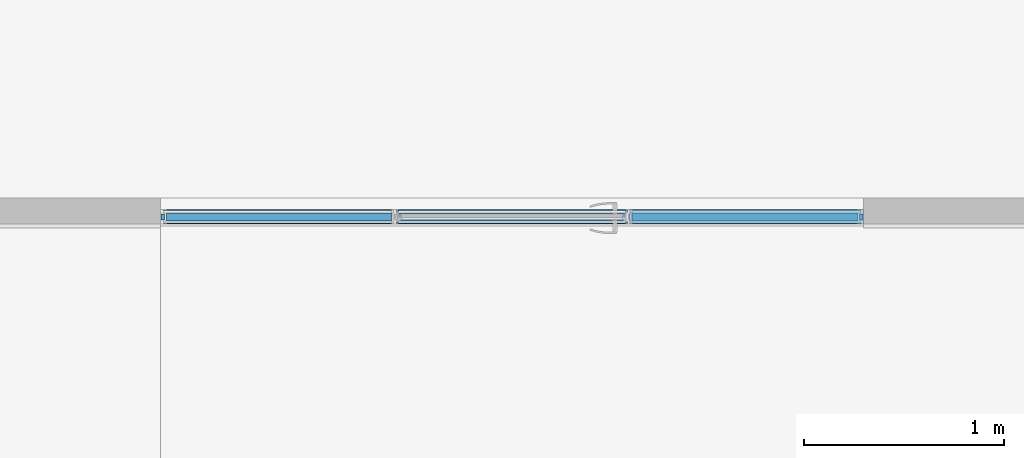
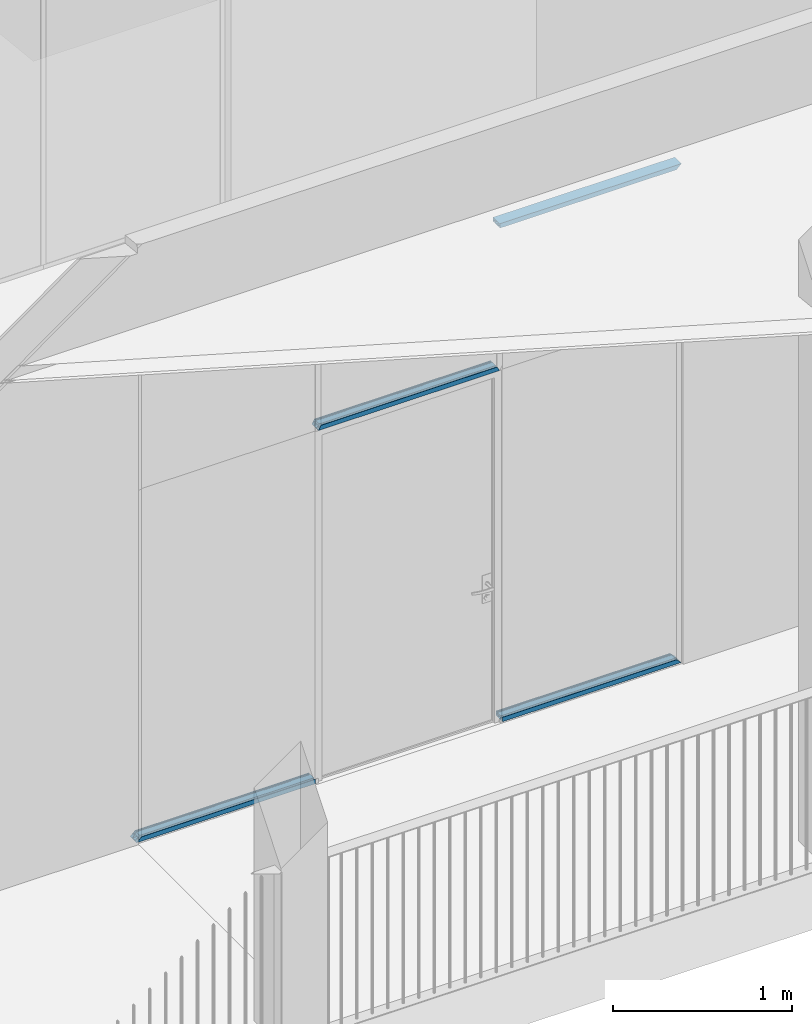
# One storey, part 15 of 43: 4 members, 1 element without a shape of its own.
"""IFC2X3 building model written with IfcOpenShell, lengths in millimetres."""

import ifcopenshell
import ifcopenshell.guid

model = None  # the IFC model being written
_history = None  # IfcOwnerHistory: only IFC2X3 demands one
_inside = {}  # id of a spatial element -> (the spatial element, [elements in it])
_under = {}  # id of a project, library or spatial element -> (it, [spatial elements below it])
_declared = {}  # id of a project -> (the project, [libraries it declares])
_typed = {}  # id of a type object -> (the type object, [elements of that type])
_made_of = {}  # id of a material, layer set ... -> (it, [elements and type objects made of it])


def new_model(schema):
    """Start an empty IFC model of exactly this schema.

    Asked for "IFC4X3", IfcOpenShell would pick the latest addendum, in which some entities
    have other attributes; the version numbers below select the first issue.
    IFC2X3 requires an IfcOwnerHistory on every rooted entity: one is made here for all.
    """
    global model, _history
    if schema == "IFC4X3":
        model = ifcopenshell.file(schema_version=(4, 3, 0, 0))
    else:
        model = ifcopenshell.file(schema=schema)
    _inside.clear()
    _under.clear()
    _declared.clear()
    _typed.clear()
    _made_of.clear()
    _history = None
    if model.schema == "IFC2X3":
        org = make("IfcOrganization", Name="unknown")
        user = make(
            "IfcPersonAndOrganization",
            ThePerson=make("IfcPerson", FamilyName="unknown"),
            TheOrganization=org,
        )
        app = make(
            "IfcApplication",
            ApplicationDeveloper=org,
            Version="unknown",
            ApplicationFullName="unknown",
            ApplicationIdentifier="unknown",
        )
        _history = make(
            "IfcOwnerHistory",
            OwningUser=user,
            OwningApplication=app,
            ChangeAction="ADDED",
            CreationDate=0,
        )
    return model


def make(cls, **values):
    """One entity of the class cls with the attributes given. An attribute that is None is left unset."""
    return model.create_entity(
        cls, **{name: value for name, value in values.items() if value is not None}
    )


def entity(cls, *values):
    """Any entity or typed value of the class cls, its attributes in the order of the schema. None: left unset."""
    e = model.create_entity(cls)
    for i, value in enumerate(values):
        if value is not None:
            e[i] = value
    return e


def rooted(cls, **values):
    """An entity with a GlobalId (a new one), such as an element, a storey or a relation."""
    return make(cls, GlobalId=ifcopenshell.guid.new(), OwnerHistory=_history, **values)


def si_unit(unit_type, name, prefix=None):
    """IfcSIUnit, for example si_unit("LENGTHUNIT", "METRE", prefix="MILLI")."""
    return make("IfcSIUnit", UnitType=unit_type, Prefix=prefix, Name=name)


def converted_unit(unit_type, name, factor, base, dimensions=None, offset=None):
    """IfcConversionBasedUnit, such as the inch: factor (a typed value) times the base unit."""
    return make(
        "IfcConversionBasedUnit"
        if offset is None
        else "IfcConversionBasedUnitWithOffset",
        ConversionOffset=offset,
        Dimensions=None
        if dimensions is None
        else entity("IfcDimensionalExponents", *dimensions),
        UnitType=unit_type,
        Name=name,
        ConversionFactor=make(
            "IfcMeasureWithUnit", ValueComponent=factor, UnitComponent=base
        ),
    )


def derived_unit(unit_type, elements):
    """IfcDerivedUnit: a product of units, each with its exponent."""
    return make(
        "IfcDerivedUnit",
        Elements=[
            make("IfcDerivedUnitElement", Unit=unit, Exponent=power)
            for unit, power in elements
        ],
        UnitType=unit_type,
    )


def money_unit(currency):
    """IfcMonetaryUnit."""
    return make("IfcMonetaryUnit", Currency=currency)


def assignment(units):
    """IfcUnitAssignment: the units of a project."""
    return None if units is None else make("IfcUnitAssignment", Units=units)


def point(xyz):
    """IfcCartesianPoint."""
    return None if xyz is None else make("IfcCartesianPoint", Coordinates=xyz)


def direction(xyz):
    """IfcDirection."""
    return None if xyz is None else make("IfcDirection", DirectionRatios=xyz)


def frame(location, z_axis=None, x_axis=None):
    """IfcAxis2Placement3D, a coordinate frame: its origin and axes. An axis left out is left unset."""
    return make(
        "IfcAxis2Placement3D",
        Location=point(location),
        Axis=direction(z_axis),
        RefDirection=direction(x_axis),
    )


def origin_with_axes():
    """The frame at (0, 0, 0) with the z axis (0, 0, 1) and the x axis (1, 0, 0) written out."""
    return frame((0.0, 0.0, 0.0), z_axis=(0.0, 0.0, 1.0), x_axis=(1.0, 0.0, 0.0))


def place(relative_to, where):
    """IfcLocalPlacement: puts the frame where relative to a parent placement (None: the world)."""
    return make(
        "IfcLocalPlacement", PlacementRelTo=relative_to, RelativePlacement=where
    )


def context(
    kind, dimensions, precision=None, world=None, true_north=None, identifier=None
):
    """IfcGeometricRepresentationContext, for example the 3D "Model" context."""
    return make(
        "IfcGeometricRepresentationContext",
        ContextIdentifier=identifier,
        ContextType=kind,
        CoordinateSpaceDimension=dimensions,
        Precision=precision,
        WorldCoordinateSystem=world,
        TrueNorth=true_north,
    )


def subcontext(parent, identifier, kind, view, scale=None):
    """IfcGeometricRepresentationSubContext, for example "Body" below "Model"."""
    return make(
        "IfcGeometricRepresentationSubContext",
        ContextIdentifier=identifier,
        ContextType=kind,
        ParentContext=parent,
        TargetScale=scale,
        TargetView=view,
    )


def project(units=None, contexts=None):
    """IfcProject with its units and contexts."""
    return rooted(
        "IfcProject",
        Name="project",
        RepresentationContexts=contexts,
        UnitsInContext=assignment(units),
    )


def spatial(cls, under=None, at=None, **own):
    """A site, building, storey or space (cls), placed at a placement, below another one or the project."""
    s = rooted(cls, ObjectPlacement=at, **own)
    if under is not None:
        _under.setdefault(under.id(), (under, []))[1].append(s)
    return s


def faces_of(points, faces, orient=None, outer=None):
    """IfcFace entities. A face is a list of loops; a loop is a list of indices into points, from 0.

    orient and outer hold one flag for each loop. By default every Orientation is true, the
    first loop of a face is its IfcFaceOuterBound and the others are IfcFaceBound.
    """
    made = []
    for i, loops in enumerate(faces):
        bounds = []
        for j, loop in enumerate(loops):
            is_outer = j == 0 if outer is None else outer[i][j]
            bounds.append(
                make(
                    "IfcFaceOuterBound" if is_outer else "IfcFaceBound",
                    Bound=make("IfcPolyLoop", Polygon=[points[k] for k in loop]),
                    Orientation=True if orient is None else orient[i][j],
                )
            )
        made.append(make("IfcFace", Bounds=bounds))
    return made


def faceted_brep(points, faces, orient=None, outer=None, voids=None):
    """IfcFacetedBrep: a solid bounded by flat faces; with voids (closed shells), ...WithVoids."""
    shared = [point(p) for p in points]
    hull = make("IfcClosedShell", CfsFaces=faces_of(shared, faces, orient, outer))
    if voids is None:
        return make("IfcFacetedBrep", Outer=hull)
    return make(
        "IfcFacetedBrepWithVoids",
        Outer=hull,
        Voids=[
            make(cls, CfsFaces=faces_of(shared, fs, o, b)) for cls, fs, o, b in voids
        ],
    )


def shape(context_of_items, identifier, shape_type, items):
    """IfcShapeRepresentation: the items that make up one representation, for example the "Body"."""
    return make(
        "IfcShapeRepresentation",
        ContextOfItems=context_of_items,
        RepresentationIdentifier=identifier,
        RepresentationType=shape_type,
        Items=items,
    )


def material(Name=None, Category=None):
    """IfcMaterial."""
    return make("IfcMaterial", Name=Name, Category=Category)


def material_list(materials):
    """IfcMaterialList."""
    return make("IfcMaterialList", Materials=materials)


def made_of(thing, what):
    """Note that an element or type object is made of a material, layer set ...; save() writes the relation."""
    if what is not None:
        _made_of.setdefault(what.id(), (what, []))[1].append(thing)
    return thing


def type_object(cls, material=None, **own):
    """A type object (cls), such as IfcWallType, which elements share."""
    return made_of(rooted(cls, **own), material)


def element(
    cls,
    number,
    at=None,
    inside=None,
    cuts=None,
    type_object=None,
    material=None,
    context=None,
    identifier="Body",
    shape_type=None,
    held_by="IfcProductDefinitionShape",
    body=None,
    shapes=None,
    **own,
):
    """One element of the class cls, such as IfcWall. Its Tag is "e" and its number.

    at: its placement. inside: the storey or other place that contains it. cuts: it is an
    opening in that element (IfcRelVoidsElement). A single representation is given by context,
    identifier, shape_type and body (its items); several are given by shapes. held_by: the class
    of the entity that holds the representations. save() writes the other relations.
    """
    e = rooted(cls, Tag="e%d" % number, ObjectPlacement=at, **own)
    if body is not None:
        shapes = [shape(context, identifier, shape_type, body)]
    if shapes is not None:
        e.Representation = make(held_by, Representations=shapes)
    if inside is not None:
        _inside.setdefault(inside.id(), (inside, []))[1].append(e)
    if cuts is not None:
        rooted(
            "IfcRelVoidsElement", RelatingBuildingElement=cuts, RelatedOpeningElement=e
        )
    if type_object is not None:
        _typed.setdefault(type_object.id(), (type_object, []))[1].append(e)
    return made_of(e, material)


def aggregate(whole, parts):
    """IfcRelAggregates: a whole, such as a stair, and the parts it consists of."""
    return rooted("IfcRelAggregates", RelatingObject=whole, RelatedObjects=parts)


def save(model, path):
    """Write the relations noted so far, then the file.

    IfcRelAggregates (storeys below a building ...), IfcRelContainedInSpatialStructure (elements
    in a storey), IfcRelDefinesByType, IfcRelAssociatesMaterial and IfcRelDeclares: one each for
    every whole, place, type object, material and project.
    """
    for whole, parts in _under.values():
        aggregate(whole, parts)
    for where, things in _inside.values():
        rooted(
            "IfcRelContainedInSpatialStructure",
            RelatedElements=things,
            RelatingStructure=where,
        )
    for kind, things in _typed.values():
        rooted("IfcRelDefinesByType", RelatedObjects=things, RelatingType=kind)
    for what, things in _made_of.values():
        rooted("IfcRelAssociatesMaterial", RelatedObjects=things, RelatingMaterial=what)
    for by, libraries in _declared.values():
        rooted("IfcRelDeclares", RelatingContext=by, RelatedDefinitions=libraries)
    model.write(path)


model = new_model("IFC2X3")

# Units and contexts
model_context = context("Model", 3, precision=0.01, world=origin_with_axes(), true_north=direction((0.0, 1.0)))
body_context = subcontext(model_context, "Body", "Model", "MODEL_VIEW")
ifc_project = project(units=[si_unit("LENGTHUNIT", "METRE", prefix="MILLI"), si_unit("AREAUNIT", "SQUARE_METRE"), si_unit("VOLUMEUNIT", "CUBIC_METRE"), converted_unit("PLANEANGLEUNIT", "DEGREE", entity("IfcPlaneAngleMeasure", 0.0174532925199), si_unit("PLANEANGLEUNIT", "RADIAN"), dimensions=[0, 0, 0, 0, 0, 0, 0]), si_unit("SOLIDANGLEUNIT", "STERADIAN"), money_unit("EUR"), converted_unit("TIMEUNIT", "Year", entity("IfcTimeMeasure", 31556926.0), si_unit("TIMEUNIT", "SECOND"), dimensions=[0, 0, 1, 0, 0, 0, 0]), si_unit("MASSUNIT", "GRAM", prefix="KILO"), si_unit("THERMODYNAMICTEMPERATUREUNIT", "DEGREE_CELSIUS"), si_unit("LUMINOUSINTENSITYUNIT", "LUMEN"), si_unit("ENERGYUNIT", "JOULE", prefix="MEGA"), derived_unit("THERMALCONDUCTANCEUNIT", [(si_unit("POWERUNIT", "WATT"), 1), (si_unit("LENGTHUNIT", "METRE"), -1), (si_unit("THERMODYNAMICTEMPERATUREUNIT", "KELVIN"), -1)]), derived_unit("SPECIFICHEATCAPACITYUNIT", [(si_unit("ENERGYUNIT", "JOULE"), 1), (si_unit("MASSUNIT", "GRAM", prefix="KILO"), -1), (si_unit("THERMODYNAMICTEMPERATUREUNIT", "KELVIN"), -1)]), derived_unit("MASSDENSITYUNIT", [(si_unit("MASSUNIT", "GRAM", prefix="KILO"), 1), (si_unit("VOLUMEUNIT", "CUBIC_METRE"), -1)])], contexts=[model_context])

# Site, building, storey
site_placement = place(None, origin_with_axes())
site = spatial("IfcSite", under=ifc_project, at=site_placement, Name="L.Koidula tn 11b", CompositionType="ELEMENT")
building_placement = place(site_placement, origin_with_axes())
building = spatial("IfcBuilding", under=site, at=building_placement, Name="Rakvere Riigigümnaasium", CompositionType="ELEMENT")
storey_placement = place(building_placement, frame((0.0, 0.0, 6665.0), z_axis=(0.0, 0.0, 1.0), x_axis=(1.0, 0.0, 0.0)))
storey = spatial("IfcBuildingStorey", under=building, at=storey_placement, Name="3.korrus +6,66", CompositionType="ELEMENT", Elevation=6665.0)

# Curtain wall, members
curtain_wall_type = type_object("IfcCurtainWallType", Name="Curtain Wall Type", PredefinedType="NOTDEFINED")
curtain_wall_placement = place(storey_placement, frame((58878.6347232, 19272.4397072, 0.0), z_axis=(0.0, 0.0, 1.0), x_axis=(1.0, 0.0, 0.0)))
curtain_wall = element("IfcCurtainWall", 1, at=curtain_wall_placement, inside=storey, type_object=curtain_wall_type, Name="SKLF-29")
ifc_material_1 = material(Name="Klaasvill")
ifc_material_2 = material(Name="Teras RAL7012")
ifc_material_list = material_list([ifc_material_1, ifc_material_2])
member_type_1 = type_object("IfcMemberType", Name="Siseklaasfassaad-Servaprofiil-Doubleline30 30 x 42", PredefinedType="MULLION")
member_1_placement = place(curtain_wall_placement, frame((471.400001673, 0.0, 2400.0), z_axis=(1.0, 0.0, 0.0), x_axis=(0.0, 0.0, 1.0)))
member_1 = element("IfcMember", 2, at=member_1_placement, type_object=member_type_1, material=ifc_material_list, Name="Frame-Siseklaasf-377", ObjectType="MULLION", context=body_context, shape_type="Brep", body=[
    faceted_brep([(13.8499999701, 15.000000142, 7.84833717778), (13.8499999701, 15.000000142, 1162.15166282), (7.49999990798, 15.000000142, 1165.74999796), (7.49999990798, 15.000000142, 4.25000203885), (13.8499999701, 29.0161444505, 7.84833717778), (13.8499999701, 29.0161444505, 1162.15166282), (7.49999990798, 29.0161444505, 1165.74999796), (7.49999990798, 29.0161444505, 4.25000203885)], [[[0, 1, 2, 3]], [[4, 5, 1, 0]], [[2, 1, 5, 6]], [[3, 2, 6, 7]], [[3, 7, 4, 0]], [[7, 6, 5, 4]]]),
    faceted_brep([(25.004489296, 27.0307503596, 14.1692175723), (25.004489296, 27.0307503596, 1155.83078243), (24.987414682, 29.0161444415, 1155.84045805), (24.987414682, 29.0161444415, 14.159541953), (25.742237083, 26.2930025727, 14.5872748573), (25.742237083, 26.2930025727, 1155.41272514), (26.7500193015, 26.0229681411, 1154.84164827), (27.75780152, 26.2930025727, 1154.2705714), (28.4955493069, 27.0307503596, 1153.85251411), (28.7655837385, 28.0385325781, 1153.69949453), (28.5126239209, 29.0161444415, 1153.8428385), (28.5126239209, 29.0161444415, 16.1571615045), (28.7655837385, 28.0385325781, 16.3005054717), (28.4955493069, 27.0307503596, 16.1474858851), (27.75780152, 26.2930025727, 15.7294286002), (26.7500193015, 26.0229681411, 15.1583517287)], [[[0, 1, 2, 3]], [[4, 5, 1, 0]], [[2, 1, 5, 6, 7, 8, 9, 10]], [[3, 2, 10, 11]], [[3, 11, 12, 13, 14, 15, 4, 0]], [[15, 6, 5, 4]], [[14, 7, 6, 15]], [[13, 8, 7, 14]], [[12, 9, 8, 13]], [[11, 10, 9, 12]]]),
    faceted_brep([(7.49999990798, -39.0161445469, 4.25000203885), (7.49999990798, -39.0161445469, 1165.74999796), (7.49999990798, -24.9999997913, 1165.74999796), (7.49999990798, -24.9999997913, 4.25000203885), (13.8499999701, -39.0161445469, 7.84833717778), (13.8499999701, -39.0161445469, 1162.15166282), (13.8499999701, -24.9999997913, 1162.15166282), (13.8499999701, -24.9999997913, 7.84833717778)], [[[0, 1, 2, 3]], [[4, 5, 1, 0]], [[2, 1, 5, 6]], [[3, 2, 6, 7]], [[3, 7, 4, 0]], [[7, 6, 5, 4]]]),
    faceted_brep([(24.987414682, -39.0161444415, 14.159541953), (24.987414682, -39.0161444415, 1155.84045805), (25.004489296, -37.0307503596, 1155.83078243), (25.004489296, -37.0307503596, 14.1692175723), (28.5126239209, -39.0161444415, 16.1571615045), (28.5126239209, -39.0161444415, 1153.8428385), (28.7655837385, -38.0385325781, 1153.69949453), (28.4955493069, -37.0307503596, 1153.85251411), (27.75780152, -36.2930025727, 1154.2705714), (26.7500193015, -36.0229681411, 1154.84164827), (25.742237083, -36.2930025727, 1155.41272514), (25.742237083, -36.2930025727, 14.5872748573), (26.7500193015, -36.0229681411, 15.1583517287), (27.75780152, -36.2930025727, 15.7294286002), (28.4955493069, -37.0307503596, 16.1474858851), (28.7655837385, -38.0385325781, 16.3005054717)], [[[0, 1, 2, 3]], [[4, 5, 1, 0]], [[2, 1, 5, 6, 7, 8, 9, 10]], [[3, 2, 10, 11]], [[3, 11, 12, 13, 14, 15, 4, 0]], [[15, 6, 5, 4]], [[14, 7, 6, 15]], [[13, 8, 7, 14]], [[12, 9, 8, 13]], [[11, 10, 9, 12]]]),
    faceted_brep([(29.5999996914, -22.0000000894, 16.7733414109), (29.5999996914, -22.0000000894, 1153.22665859), (0.0, -22.0000000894, 1170.0), (0.0, -22.0000000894, 0.0), (29.5999996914, 12.0000000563, 16.7733414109), (29.5999996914, 12.0000000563, 1153.22665859), (0.0, 12.0000000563, 1170.0), (1.9999999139, 10.0000001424, 1168.86666616), (18.7999996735, 10.0000001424, 1159.34666161), (18.7999996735, -20.0000001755, 1159.34666161), (1.9999999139, -20.0000001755, 1168.86666616), (0.0, 12.0000000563, 0.0), (1.9999999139, 10.0000001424, 1.13333384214), (1.9999999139, -20.0000001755, 1.13333384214), (18.7999996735, -20.0000001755, 10.6533383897), (18.7999996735, 10.0000001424, 10.6533383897)], [[[0, 1, 2, 3]], [[4, 5, 1, 0]], [[2, 1, 5, 6], [7, 8, 9, 10]], [[3, 2, 6, 11]], [[3, 11, 4, 0], [12, 13, 14, 15]], [[11, 6, 5, 4]], [[15, 8, 7, 12]], [[14, 9, 8, 15]], [[13, 10, 9, 14]], [[12, 7, 10, 13]]]),
    faceted_brep([(29.5999996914, 12.0000000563, 16.7733414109), (29.5999996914, 12.0000000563, 1153.22665859), (0.0, 12.0, 1170.0), (0.0, 12.0, 0.0), (30.0000193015, 12.0, 17.0000193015), (30.0000193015, 12.0, 1152.9999807), (30.0000193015, 15.0, 1152.9999807), (13.8499999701, 15.000000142, 1162.15166282), (7.49999999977, 15.0, 1165.74999791), (7.49999999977, 29.0161444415, 1165.74999791), (13.8499999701, 29.0161444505, 1162.15166282), (24.987414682, 29.0161444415, 1155.84045805), (28.5126239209, 29.0161444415, 1153.8428385), (30.0000193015, 29.0161444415, 1152.9999807), (30.0000193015, 32.0, 1152.9999807), (0.0, 32.0, 1170.0), (0.0, 32.0, 0.0), (30.0000193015, 32.0, 17.0000193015), (30.0000193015, 29.0161444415, 17.0000193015), (28.5126239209, 29.0161444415, 16.1571615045), (24.987414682, 29.0161444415, 14.159541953), (13.8499999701, 29.0161444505, 7.84833717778), (7.49999999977, 29.0161444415, 4.25000209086), (7.49999999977, 15.0, 4.25000209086), (13.8499999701, 15.000000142, 7.84833717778), (30.0000193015, 15.0, 17.0000193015)], [[[0, 1, 2, 3]], [[4, 5, 1, 0]], [[2, 1, 5, 6, 7, 8, 9, 10, 11, 12, 13, 14, 15]], [[3, 2, 15, 16]], [[3, 16, 17, 18, 19, 20, 21, 22, 23, 24, 25, 4, 0]], [[25, 6, 5, 4]], [[24, 7, 6, 25]], [[23, 8, 7, 24]], [[22, 9, 8, 23]], [[21, 10, 9, 22]], [[20, 11, 10, 21]], [[19, 12, 11, 20]], [[18, 13, 12, 19]], [[17, 14, 13, 18]], [[16, 15, 14, 17]]]),
    faceted_brep([(0.0, -42.0, 0.0), (0.0, -42.0, 1170.0), (0.0, -22.0, 1170.0), (0.0, -22.0, 0.0), (30.0000193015, -42.0, 17.0000193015), (30.0000193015, -42.0, 1152.9999807), (30.0000193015, -39.0161444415, 1152.9999807), (28.5126239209, -39.0161444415, 1153.8428385), (24.987414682, -39.0161444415, 1155.84045805), (13.8499999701, -39.0161445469, 1162.15166282), (7.49999999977, -39.0161444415, 1165.74999791), (7.49999999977, -25.0, 1165.74999791), (13.8499999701, -24.9999997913, 1162.15166282), (30.0000193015, -25.0, 1152.9999807), (30.0000193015, -22.0, 1152.9999807), (29.5999996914, -22.0000000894, 1153.22665859), (29.5999996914, -22.0000000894, 16.7733414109), (30.0000193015, -22.0, 17.0000193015), (30.0000193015, -25.0, 17.0000193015), (13.8499999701, -24.9999997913, 7.84833717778), (7.49999999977, -25.0, 4.25000209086), (7.49999999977, -39.0161444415, 4.25000209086), (13.8499999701, -39.0161445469, 7.84833717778), (24.987414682, -39.0161444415, 14.159541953), (28.5126239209, -39.0161444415, 16.1571615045), (30.0000193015, -39.0161444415, 17.0000193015)], [[[0, 1, 2, 3]], [[4, 5, 1, 0]], [[2, 1, 5, 6, 7, 8, 9, 10, 11, 12, 13, 14, 15]], [[3, 2, 15, 16]], [[3, 16, 17, 18, 19, 20, 21, 22, 23, 24, 25, 4, 0]], [[25, 6, 5, 4]], [[24, 7, 6, 25]], [[23, 8, 7, 24]], [[22, 9, 8, 23]], [[21, 10, 9, 22]], [[20, 11, 10, 21]], [[19, 12, 11, 20]], [[18, 13, 12, 19]], [[17, 14, 13, 18]], [[16, 15, 14, 17]]]),
])
member_type_2 = type_object("IfcMemberType", Name="Boundary Frame 30 x 42", PredefinedType="MULLION")
member_2_placement = place(curtain_wall_placement, frame((1658.39999893, 0.0, 0.0), z_axis=(1.0, 0.0, 0.0), x_axis=(0.0, 0.0, 1.0)))
member_2 = element("IfcMember", 3, at=member_2_placement, type_object=member_type_2, material=ifc_material_list, Name="SKLF-29-raam", ObjectType="MULLION", context=body_context, shape_type="Brep", body=[
    faceted_brep([(7.49999990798, 15.000000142, 0.0), (13.8499999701, 15.000000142, 0.0), (13.8499999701, 15.000000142, 1139.13618007), (7.49999990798, 15.000000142, 1145.48618015), (7.49999990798, 29.0161444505, 0.0), (13.8499999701, 29.0161444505, 0.0), (13.8499999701, 29.0161444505, 1139.13618007), (7.49999990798, 29.0161444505, 1145.48618015)], [[[0, 1, 2, 3]], [[0, 4, 5, 1]], [[1, 5, 6, 2]], [[3, 2, 6, 7]], [[4, 0, 3, 7]], [[5, 4, 7, 6]]]),
    faceted_brep([(24.987414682, 29.0161444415, 0.0), (25.004489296, 27.0307503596, 0.0), (25.004489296, 27.0307503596, 1127.98169072), (24.987414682, 29.0161444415, 1127.99876533), (28.5126239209, 29.0161444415, 0.0), (28.7655837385, 28.0385325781, 0.0), (28.4955493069, 27.0307503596, 0.0), (27.75780152, 26.2930025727, 0.0), (26.7500193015, 26.0229681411, 0.0), (25.742237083, 26.2930025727, 0.0), (25.742237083, 26.2930025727, 1127.24394293), (26.7500193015, 26.0229681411, 1126.23616071), (27.75780152, 26.2930025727, 1125.22837849), (28.4955493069, 27.0307503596, 1124.4906307), (28.7655837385, 28.0385325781, 1124.22059627), (28.5126239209, 29.0161444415, 1124.47355609)], [[[0, 1, 2, 3]], [[0, 4, 5, 6, 7, 8, 9, 1]], [[1, 9, 10, 2]], [[3, 2, 10, 11, 12, 13, 14, 15]], [[4, 0, 3, 15]], [[5, 4, 15, 14]], [[6, 5, 14, 13]], [[7, 6, 13, 12]], [[8, 7, 12, 11]], [[9, 8, 11, 10]]]),
    faceted_brep([(7.49999990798, -24.9999997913, 0.0), (7.49999990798, -39.0161445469, 0.0), (7.49999990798, -39.0161445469, 1145.48618015), (7.49999990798, -24.9999997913, 1145.48618015), (13.8499999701, -24.9999997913, 0.0), (13.8499999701, -39.0161445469, 0.0), (13.8499999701, -39.0161445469, 1139.13618007), (13.8499999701, -24.9999997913, 1139.13618007)], [[[0, 1, 2, 3]], [[0, 4, 5, 1]], [[1, 5, 6, 2]], [[3, 2, 6, 7]], [[4, 0, 3, 7]], [[5, 4, 7, 6]]]),
    faceted_brep([(25.004489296, -37.0307503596, 0.0), (24.987414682, -39.0161444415, 0.0), (24.987414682, -39.0161444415, 1127.99876533), (25.004489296, -37.0307503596, 1127.98169072), (25.742237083, -36.2930025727, 0.0), (26.7500193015, -36.0229681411, 0.0), (27.75780152, -36.2930025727, 0.0), (28.4955493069, -37.0307503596, 0.0), (28.7655837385, -38.0385325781, 0.0), (28.5126239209, -39.0161444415, 0.0), (28.5126239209, -39.0161444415, 1124.47355609), (28.7655837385, -38.0385325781, 1124.22059627), (28.4955493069, -37.0307503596, 1124.4906307), (27.75780152, -36.2930025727, 1125.22837849), (26.7500193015, -36.0229681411, 1126.23616071), (25.742237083, -36.2930025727, 1127.24394293)], [[[0, 1, 2, 3]], [[0, 4, 5, 6, 7, 8, 9, 1]], [[1, 9, 10, 2]], [[3, 2, 10, 11, 12, 13, 14, 15]], [[4, 0, 3, 15]], [[5, 4, 15, 14]], [[6, 5, 14, 13]], [[7, 6, 13, 12]], [[8, 7, 12, 11]], [[9, 8, 11, 10]]]),
    faceted_brep([(0.0, -22.0000000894, 0.0), (29.5999996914, -22.0000000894, 0.0), (29.5999996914, -22.0000000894, 1123.38618031), (0.0, -22.0000000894, 1152.98618008), (0.0, 12.0000000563, 0.0), (29.5999996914, 12.0000000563, 0.0), (1.9999999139, 10.0000001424, 0.0), (1.9999999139, -20.0000001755, 0.0), (18.7999996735, -20.0000001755, 0.0), (18.7999996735, 10.0000001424, 0.0), (29.5999996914, 12.0000000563, 1123.38618031), (0.0, 12.0000000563, 1152.98618008), (1.9999999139, 10.0000001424, 1150.98618016), (18.7999996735, 10.0000001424, 1134.18618036), (18.7999996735, -20.0000001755, 1134.18618036), (1.9999999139, -20.0000001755, 1150.98618016)], [[[0, 1, 2, 3]], [[0, 4, 5, 1], [6, 7, 8, 9]], [[1, 5, 10, 2]], [[3, 2, 10, 11], [12, 13, 14, 15]], [[4, 0, 3, 11]], [[5, 4, 11, 10]], [[7, 6, 12, 15]], [[8, 7, 15, 14]], [[9, 8, 14, 13]], [[6, 9, 13, 12]]]),
    faceted_brep([(0.0, 12.0, 0.0), (29.5999996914, 12.0000000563, 0.0), (29.5999996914, 12.0000000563, 1123.38618031), (0.0, 12.0, 1152.98618008), (0.0, 32.0, 0.0), (30.0000193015, 32.0, 0.0), (30.0000193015, 29.0161444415, 0.0), (28.5126239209, 29.0161444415, 0.0), (24.987414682, 29.0161444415, 0.0), (13.8499999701, 29.0161444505, 0.0), (7.49999999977, 29.0161444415, 0.0), (7.49999999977, 15.0, 0.0), (13.8499999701, 15.000000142, 0.0), (30.0000193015, 15.0, 0.0), (30.0000193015, 12.0, 0.0), (30.0000193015, 12.0, 1122.9861607), (30.0000193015, 15.0, 1122.9861607), (13.8499999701, 15.000000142, 1139.13618007), (7.49999999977, 15.0, 1145.48618006), (7.49999999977, 29.0161444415, 1145.48618006), (13.8499999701, 29.0161444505, 1139.13618007), (24.987414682, 29.0161444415, 1127.99876533), (28.5126239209, 29.0161444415, 1124.47355609), (30.0000193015, 29.0161444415, 1122.9861607), (30.0000193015, 32.0, 1122.9861607), (0.0, 32.0, 1152.98618008)], [[[0, 1, 2, 3]], [[0, 4, 5, 6, 7, 8, 9, 10, 11, 12, 13, 14, 1]], [[1, 14, 15, 2]], [[3, 2, 15, 16, 17, 18, 19, 20, 21, 22, 23, 24, 25]], [[4, 0, 3, 25]], [[5, 4, 25, 24]], [[6, 5, 24, 23]], [[7, 6, 23, 22]], [[8, 7, 22, 21]], [[9, 8, 21, 20]], [[10, 9, 20, 19]], [[11, 10, 19, 18]], [[12, 11, 18, 17]], [[13, 12, 17, 16]], [[14, 13, 16, 15]]]),
    faceted_brep([(0.0, -22.0, 0.0), (0.0, -42.0, 0.0), (0.0, -42.0, 1152.98618008), (0.0, -22.0, 1152.98618008), (29.5999996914, -22.0000000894, 0.0), (30.0000193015, -22.0, 0.0), (30.0000193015, -25.0, 0.0), (13.8499999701, -24.9999997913, 0.0), (7.49999999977, -25.0, 0.0), (7.49999999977, -39.0161444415, 0.0), (13.8499999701, -39.0161445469, 0.0), (24.987414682, -39.0161444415, 0.0), (28.5126239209, -39.0161444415, 0.0), (30.0000193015, -39.0161444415, 0.0), (30.0000193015, -42.0, 0.0), (30.0000193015, -42.0, 1122.9861607), (30.0000193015, -39.0161444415, 1122.9861607), (28.5126239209, -39.0161444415, 1124.47355609), (24.987414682, -39.0161444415, 1127.99876533), (13.8499999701, -39.0161445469, 1139.13618007), (7.49999999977, -39.0161444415, 1145.48618006), (7.49999999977, -25.0, 1145.48618006), (13.8499999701, -24.9999997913, 1139.13618007), (30.0000193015, -25.0, 1122.9861607), (30.0000193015, -22.0, 1122.9861607), (29.5999996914, -22.0000000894, 1123.38618031)], [[[0, 1, 2, 3]], [[0, 4, 5, 6, 7, 8, 9, 10, 11, 12, 13, 14, 1]], [[1, 14, 15, 2]], [[3, 2, 15, 16, 17, 18, 19, 20, 21, 22, 23, 24, 25]], [[4, 0, 3, 25]], [[5, 4, 25, 24]], [[6, 5, 24, 23]], [[7, 6, 23, 22]], [[8, 7, 22, 21]], [[9, 8, 21, 20]], [[10, 9, 20, 19]], [[11, 10, 19, 18]], [[12, 11, 18, 17]], [[13, 12, 17, 16]], [[14, 13, 16, 15]]]),
])
member_3_placement = place(curtain_wall_placement, frame((1641.40000167, 0.0, 3400.0), z_axis=(1.0, 0.0, 0.0), x_axis=(0.0, 0.0, 1.0)))
member_3 = element("IfcMember", 4, at=member_3_placement, type_object=member_type_2, material=ifc_material_list, Name="SKLF-32-raam", ObjectType="MULLION", context=body_context, shape_type="Brep", body=[
    faceted_brep([(-7.49999990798, 15.000000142, 0.0), (-7.49999990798, 15.000000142, 1162.48614), (-13.8499999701, 15.000000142, 1156.13614015), (-13.8499999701, 15.000000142, 0.0), (-7.49999990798, 29.0161444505, 0.0), (-7.49999990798, 29.0161444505, 1162.48614), (-13.8499999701, 29.0161444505, 1156.13614015), (-13.8499999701, 29.0161444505, 0.0)], [[[0, 1, 2, 3]], [[4, 5, 1, 0]], [[1, 5, 6, 2]], [[3, 2, 6, 7]], [[0, 3, 7, 4]], [[7, 6, 5, 4]]]),
    faceted_brep([(-24.987414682, 29.0161444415, 0.0), (-24.987414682, 29.0161444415, 1144.99872579), (-25.004489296, 27.0307503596, 1144.98165118), (-25.004489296, 27.0307503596, 0.0), (-28.5126239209, 29.0161444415, 0.0), (-28.5126239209, 29.0161444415, 1141.47351666), (-28.7655837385, 28.0385325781, 1141.22055685), (-28.4955493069, 27.0307503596, 1141.49059128), (-27.75780152, 26.2930025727, 1142.22833904), (-26.7500193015, 26.0229681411, 1143.23612123), (-25.742237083, 26.2930025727, 1144.24390341), (-25.742237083, 26.2930025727, 0.0), (-26.7500193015, 26.0229681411, 0.0), (-27.75780152, 26.2930025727, 0.0), (-28.4955493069, 27.0307503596, 0.0), (-28.7655837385, 28.0385325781, 0.0)], [[[0, 1, 2, 3]], [[4, 5, 1, 0]], [[1, 5, 6, 7, 8, 9, 10, 2]], [[3, 2, 10, 11]], [[0, 3, 11, 12, 13, 14, 15, 4]], [[15, 6, 5, 4]], [[14, 7, 6, 15]], [[13, 8, 7, 14]], [[12, 9, 8, 13]], [[11, 10, 9, 12]]]),
    faceted_brep([(-7.49999990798, -24.9999997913, 0.0), (-7.49999990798, -24.9999997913, 1162.48614), (-7.49999990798, -39.0161445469, 1162.48614), (-7.49999990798, -39.0161445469, 0.0), (-13.8499999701, -24.9999997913, 0.0), (-13.8499999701, -24.9999997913, 1156.13614015), (-13.8499999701, -39.0161445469, 1156.13614015), (-13.8499999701, -39.0161445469, 0.0)], [[[0, 1, 2, 3]], [[4, 5, 1, 0]], [[1, 5, 6, 2]], [[3, 2, 6, 7]], [[0, 3, 7, 4]], [[7, 6, 5, 4]]]),
    faceted_brep([(-25.004489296, -37.0307503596, 0.0), (-25.004489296, -37.0307503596, 1144.98165118), (-24.987414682, -39.0161444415, 1144.99872579), (-24.987414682, -39.0161444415, 0.0), (-25.742237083, -36.2930025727, 0.0), (-25.742237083, -36.2930025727, 1144.24390341), (-26.7500193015, -36.0229681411, 1143.23612123), (-27.75780152, -36.2930025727, 1142.22833904), (-28.4955493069, -37.0307503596, 1141.49059128), (-28.7655837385, -38.0385325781, 1141.22055685), (-28.5126239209, -39.0161444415, 1141.47351666), (-28.5126239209, -39.0161444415, 0.0), (-28.7655837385, -38.0385325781, 0.0), (-28.4955493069, -37.0307503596, 0.0), (-27.75780152, -36.2930025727, 0.0), (-26.7500193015, -36.0229681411, 0.0)], [[[0, 1, 2, 3]], [[4, 5, 1, 0]], [[1, 5, 6, 7, 8, 9, 10, 2]], [[3, 2, 10, 11]], [[0, 3, 11, 12, 13, 14, 15, 4]], [[15, 6, 5, 4]], [[14, 7, 6, 15]], [[13, 8, 7, 14]], [[12, 9, 8, 13]], [[11, 10, 9, 12]]]),
    faceted_brep([(0.0, -22.0000000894, 0.0), (0.0, -22.0000000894, 1169.98613967), (-29.5999996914, -22.0000000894, 1140.38614093), (-29.5999996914, -22.0000000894, 0.0), (0.0, 12.0000000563, 0.0), (0.0, 12.0000000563, 1169.98613967), (-29.5999996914, 12.0000000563, 1140.38614093), (-1.9999999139, 10.0000001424, 1167.98613982), (-1.9999999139, -20.0000001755, 1167.98613982), (-18.7999996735, -20.0000001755, 1151.1861406), (-18.7999996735, 10.0000001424, 1151.1861406), (-29.5999996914, 12.0000000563, 0.0), (-1.9999999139, 10.0000001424, 0.0), (-18.7999996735, 10.0000001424, 0.0), (-18.7999996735, -20.0000001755, 0.0), (-1.9999999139, -20.0000001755, 0.0)], [[[0, 1, 2, 3]], [[4, 5, 1, 0]], [[1, 5, 6, 2], [7, 8, 9, 10]], [[3, 2, 6, 11]], [[0, 3, 11, 4], [12, 13, 14, 15]], [[11, 6, 5, 4]], [[15, 8, 7, 12]], [[14, 9, 8, 15]], [[13, 10, 9, 14]], [[12, 7, 10, 13]]]),
    faceted_brep([(0.0, 12.0, 0.0), (0.0, 12.0, 1169.98613967), (-29.5999996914, 12.0000000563, 1140.38614093), (-29.5999996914, 12.0000000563, 0.0), (0.0, 32.0, 0.0), (0.0, 32.0, 1169.98613967), (-30.0000193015, 32.0, 1139.98612133), (-30.0000193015, 29.0161444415, 1139.98612133), (-28.5126239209, 29.0161444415, 1141.47351666), (-24.987414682, 29.0161444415, 1144.99872579), (-13.8499999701, 29.0161444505, 1156.13614015), (-7.49999999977, 29.0161444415, 1162.48613991), (-7.49999999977, 15.0, 1162.48613991), (-13.8499999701, 15.000000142, 1156.13614015), (-30.0000193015, 15.0, 1139.98612133), (-30.0000193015, 12.0, 1139.98612133), (-30.0000193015, 12.0, 0.0), (-30.0000193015, 15.0, 0.0), (-13.8499999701, 15.000000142, 0.0), (-7.49999999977, 15.0, 0.0), (-7.49999999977, 29.0161444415, 0.0), (-13.8499999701, 29.0161444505, 0.0), (-24.987414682, 29.0161444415, 0.0), (-28.5126239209, 29.0161444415, 0.0), (-30.0000193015, 29.0161444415, 0.0), (-30.0000193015, 32.0, 0.0)], [[[0, 1, 2, 3]], [[4, 5, 1, 0]], [[1, 5, 6, 7, 8, 9, 10, 11, 12, 13, 14, 15, 2]], [[3, 2, 15, 16]], [[0, 3, 16, 17, 18, 19, 20, 21, 22, 23, 24, 25, 4]], [[25, 6, 5, 4]], [[24, 7, 6, 25]], [[23, 8, 7, 24]], [[22, 9, 8, 23]], [[21, 10, 9, 22]], [[20, 11, 10, 21]], [[19, 12, 11, 20]], [[18, 13, 12, 19]], [[17, 14, 13, 18]], [[16, 15, 14, 17]]]),
    faceted_brep([(0.0, -22.0, 0.0), (0.0, -22.0, 1169.98613967), (0.0, -42.0, 1169.98613967), (0.0, -42.0, 0.0), (-29.5999996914, -22.0000000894, 0.0), (-29.5999996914, -22.0000000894, 1140.38614093), (-30.0000193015, -22.0, 1139.98612133), (-30.0000193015, -25.0, 1139.98612133), (-13.8499999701, -24.9999997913, 1156.13614015), (-7.49999999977, -25.0, 1162.48613991), (-7.49999999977, -39.0161444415, 1162.48613991), (-13.8499999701, -39.0161445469, 1156.13614015), (-24.987414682, -39.0161444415, 1144.99872579), (-28.5126239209, -39.0161444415, 1141.47351666), (-30.0000193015, -39.0161444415, 1139.98612133), (-30.0000193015, -42.0, 1139.98612133), (-30.0000193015, -42.0, 0.0), (-30.0000193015, -39.0161444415, 0.0), (-28.5126239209, -39.0161444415, 0.0), (-24.987414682, -39.0161444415, 0.0), (-13.8499999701, -39.0161445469, 0.0), (-7.49999999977, -39.0161444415, 0.0), (-7.49999999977, -25.0, 0.0), (-13.8499999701, -24.9999997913, 0.0), (-30.0000193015, -25.0, 0.0), (-30.0000193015, -22.0, 0.0)], [[[0, 1, 2, 3]], [[4, 5, 1, 0]], [[1, 5, 6, 7, 8, 9, 10, 11, 12, 13, 14, 15, 2]], [[3, 2, 15, 16]], [[0, 3, 16, 17, 18, 19, 20, 21, 22, 23, 24, 25, 4]], [[25, 6, 5, 4]], [[24, 7, 6, 25]], [[23, 8, 7, 24]], [[22, 9, 8, 23]], [[21, 10, 9, 22]], [[20, 11, 10, 21]], [[19, 12, 11, 20]], [[18, 13, 12, 19]], [[17, 14, 13, 18]], [[16, 15, 14, 17]]]),
])
member_4_placement = place(curtain_wall_placement, frame((-698.599998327, 0.0, 0.0), z_axis=(1.0, 0.0, 0.0), x_axis=(0.0, 0.0, 1.0)))
member_4 = element("IfcMember", 5, at=member_4_placement, type_object=member_type_2, material=ifc_material_list, Name="SKLF-40-raam", ObjectType="MULLION", context=body_context, shape_type="Brep", body=[
    faceted_brep([(13.8499999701, 15.000000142, 13.8499999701), (13.8499999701, 15.000000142, 1152.99999163), (7.49999990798, 15.000000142, 1152.99999163), (7.49999990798, 15.000000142, 7.49999990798), (13.8499999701, 29.0161444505, 13.8499999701), (13.8499999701, 29.0161444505, 1152.99999163), (7.49999990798, 29.0161444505, 1152.99999163), (7.49999990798, 29.0161444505, 7.49999990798)], [[[0, 1, 2, 3]], [[4, 5, 1, 0]], [[2, 1, 5, 6]], [[3, 2, 6, 7]], [[3, 7, 4, 0]], [[7, 6, 5, 4]]]),
    faceted_brep([(25.004489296, 27.0307503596, 25.004489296), (25.004489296, 27.0307503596, 1152.99999163), (24.987414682, 29.0161444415, 1152.99999163), (24.987414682, 29.0161444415, 24.987414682), (25.742237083, 26.2930025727, 25.742237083), (25.742237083, 26.2930025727, 1152.99999163), (26.7500193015, 26.0229681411, 1152.99999163), (27.75780152, 26.2930025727, 1152.99999163), (28.4955493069, 27.0307503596, 1152.99999163), (28.7655837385, 28.0385325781, 1152.99999163), (28.5126239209, 29.0161444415, 1152.99999163), (28.5126239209, 29.0161444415, 28.5126239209), (28.7655837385, 28.0385325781, 28.7655837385), (28.4955493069, 27.0307503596, 28.4955493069), (27.75780152, 26.2930025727, 27.75780152), (26.7500193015, 26.0229681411, 26.7500193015)], [[[0, 1, 2, 3]], [[4, 5, 1, 0]], [[2, 1, 5, 6, 7, 8, 9, 10]], [[3, 2, 10, 11]], [[3, 11, 12, 13, 14, 15, 4, 0]], [[15, 6, 5, 4]], [[14, 7, 6, 15]], [[13, 8, 7, 14]], [[12, 9, 8, 13]], [[11, 10, 9, 12]]]),
    faceted_brep([(7.49999990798, -39.0161445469, 7.49999990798), (7.49999990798, -39.0161445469, 1152.99999163), (7.49999990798, -24.9999997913, 1152.99999163), (7.49999990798, -24.9999997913, 7.49999990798), (13.8499999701, -39.0161445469, 13.8499999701), (13.8499999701, -39.0161445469, 1152.99999163), (13.8499999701, -24.9999997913, 1152.99999163), (13.8499999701, -24.9999997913, 13.8499999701)], [[[0, 1, 2, 3]], [[4, 5, 1, 0]], [[2, 1, 5, 6]], [[3, 2, 6, 7]], [[3, 7, 4, 0]], [[7, 6, 5, 4]]]),
    faceted_brep([(24.987414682, -39.0161444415, 24.987414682), (24.987414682, -39.0161444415, 1152.99999163), (25.004489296, -37.0307503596, 1152.99999163), (25.004489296, -37.0307503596, 25.004489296), (28.5126239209, -39.0161444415, 28.5126239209), (28.5126239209, -39.0161444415, 1152.99999163), (28.7655837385, -38.0385325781, 1152.99999163), (28.4955493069, -37.0307503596, 1152.99999163), (27.75780152, -36.2930025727, 1152.99999163), (26.7500193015, -36.0229681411, 1152.99999163), (25.742237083, -36.2930025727, 1152.99999163), (25.742237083, -36.2930025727, 25.742237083), (26.7500193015, -36.0229681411, 26.7500193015), (27.75780152, -36.2930025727, 27.75780152), (28.4955493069, -37.0307503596, 28.4955493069), (28.7655837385, -38.0385325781, 28.7655837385)], [[[0, 1, 2, 3]], [[4, 5, 1, 0]], [[2, 1, 5, 6, 7, 8, 9, 10]], [[3, 2, 10, 11]], [[3, 11, 12, 13, 14, 15, 4, 0]], [[15, 6, 5, 4]], [[14, 7, 6, 15]], [[13, 8, 7, 14]], [[12, 9, 8, 13]], [[11, 10, 9, 12]]]),
    faceted_brep([(29.5999996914, -22.0000000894, 29.5999996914), (29.5999996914, -22.0000000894, 1152.99999163), (0.0, -22.0000000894, 1152.99999163), (0.0, -22.0000000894, 0.0), (29.5999996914, 12.0000000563, 29.5999996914), (29.5999996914, 12.0000000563, 1152.99999163), (0.0, 12.0000000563, 1152.99999163), (1.9999999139, 10.0000001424, 1152.99999163), (18.7999996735, 10.0000001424, 1152.99999163), (18.7999996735, -20.0000001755, 1152.99999163), (1.9999999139, -20.0000001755, 1152.99999163), (0.0, 12.0000000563, 0.0), (1.9999999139, 10.0000001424, 1.9999999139), (1.9999999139, -20.0000001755, 1.9999999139), (18.7999996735, -20.0000001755, 18.7999996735), (18.7999996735, 10.0000001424, 18.7999996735)], [[[0, 1, 2, 3]], [[4, 5, 1, 0]], [[2, 1, 5, 6], [7, 8, 9, 10]], [[3, 2, 6, 11]], [[3, 11, 4, 0], [12, 13, 14, 15]], [[11, 6, 5, 4]], [[15, 8, 7, 12]], [[14, 9, 8, 15]], [[13, 10, 9, 14]], [[12, 7, 10, 13]]]),
    faceted_brep([(29.5999996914, 12.0000000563, 29.5999996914), (29.5999996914, 12.0000000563, 1152.99999163), (0.0, 12.0, 1152.99999163), (0.0, 12.0, 0.0), (30.0000193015, 12.0, 30.0000193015), (30.0000193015, 12.0, 1152.99999163), (30.0000193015, 15.0, 1152.99999163), (13.8499999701, 15.000000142, 1152.99999163), (7.49999999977, 15.0, 1152.99999163), (7.49999999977, 29.0161444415, 1152.99999163), (13.8499999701, 29.0161444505, 1152.99999163), (24.987414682, 29.0161444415, 1152.99999163), (28.5126239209, 29.0161444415, 1152.99999163), (30.0000193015, 29.0161444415, 1152.99999163), (30.0000193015, 32.0, 1152.99999163), (0.0, 32.0, 1152.99999163), (0.0, 32.0, 0.0), (30.0000193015, 32.0, 30.0000193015), (30.0000193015, 29.0161444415, 30.0000193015), (28.5126239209, 29.0161444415, 28.5126239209), (24.987414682, 29.0161444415, 24.987414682), (13.8499999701, 29.0161444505, 13.8499999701), (7.49999999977, 29.0161444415, 7.49999999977), (7.49999999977, 15.0, 7.49999999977), (13.8499999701, 15.000000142, 13.8499999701), (30.0000193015, 15.0, 30.0000193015)], [[[0, 1, 2, 3]], [[4, 5, 1, 0]], [[2, 1, 5, 6, 7, 8, 9, 10, 11, 12, 13, 14, 15]], [[3, 2, 15, 16]], [[3, 16, 17, 18, 19, 20, 21, 22, 23, 24, 25, 4, 0]], [[25, 6, 5, 4]], [[24, 7, 6, 25]], [[23, 8, 7, 24]], [[22, 9, 8, 23]], [[21, 10, 9, 22]], [[20, 11, 10, 21]], [[19, 12, 11, 20]], [[18, 13, 12, 19]], [[17, 14, 13, 18]], [[16, 15, 14, 17]]]),
    faceted_brep([(0.0, -42.0, 0.0), (0.0, -42.0, 1152.99999163), (0.0, -22.0, 1152.99999163), (0.0, -22.0, 0.0), (30.0000193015, -42.0, 30.0000193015), (30.0000193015, -42.0, 1152.99999163), (30.0000193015, -39.0161444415, 1152.99999163), (28.5126239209, -39.0161444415, 1152.99999163), (24.987414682, -39.0161444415, 1152.99999163), (13.8499999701, -39.0161445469, 1152.99999163), (7.49999999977, -39.0161444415, 1152.99999163), (7.49999999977, -25.0, 1152.99999163), (13.8499999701, -24.9999997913, 1152.99999163), (30.0000193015, -25.0, 1152.99999163), (30.0000193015, -22.0, 1152.99999163), (29.5999996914, -22.0000000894, 1152.99999163), (29.5999996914, -22.0000000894, 29.5999996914), (30.0000193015, -22.0, 30.0000193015), (30.0000193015, -25.0, 30.0000193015), (13.8499999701, -24.9999997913, 13.8499999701), (7.49999999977, -25.0, 7.49999999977), (7.49999999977, -39.0161444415, 7.49999999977), (13.8499999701, -39.0161445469, 13.8499999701), (24.987414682, -39.0161444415, 24.987414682), (28.5126239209, -39.0161444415, 28.5126239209), (30.0000193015, -39.0161444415, 30.0000193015)], [[[0, 1, 2, 3]], [[4, 5, 1, 0]], [[2, 1, 5, 6, 7, 8, 9, 10, 11, 12, 13, 14, 15]], [[3, 2, 15, 16]], [[3, 16, 17, 18, 19, 20, 21, 22, 23, 24, 25, 4, 0]], [[25, 6, 5, 4]], [[24, 7, 6, 25]], [[23, 8, 7, 24]], [[22, 9, 8, 23]], [[21, 10, 9, 22]], [[20, 11, 10, 21]], [[19, 12, 11, 20]], [[18, 13, 12, 19]], [[17, 14, 13, 18]], [[16, 15, 14, 17]]]),
])
aggregate(curtain_wall, [member_1, member_2, member_3, member_4])

save(model, "model.ifc")
